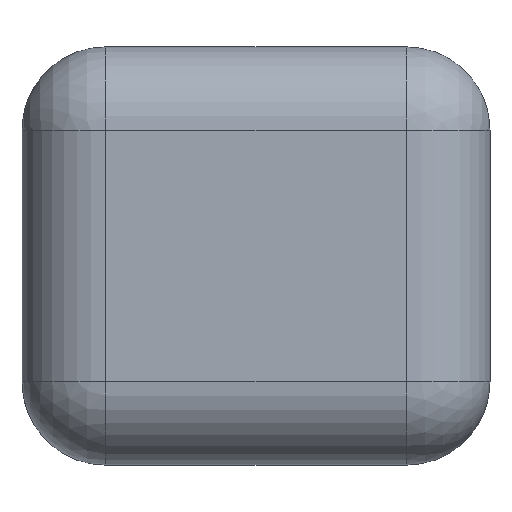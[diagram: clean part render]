
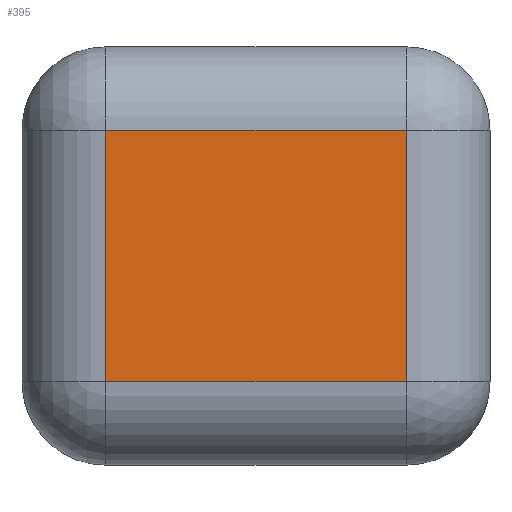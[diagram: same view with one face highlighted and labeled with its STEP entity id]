
A CAD part, left-side view. The second image highlights one B-rep face of the part: STEP entity #395.
In plain terms, the highlighted planar face has unit normal (-1, 0, 0).
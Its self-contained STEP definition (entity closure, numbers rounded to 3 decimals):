
#26 = CARTESIAN_POINT ( 'NONE',  ( -0.5, 0.1, -0.15 ) ) ;
#27 = VERTEX_POINT ( 'NONE', #26 ) ;
#242 = CARTESIAN_POINT ( 'NONE',  ( -0.5, 0.46, 0.151 ) ) ;
#243 = VERTEX_POINT ( 'NONE', #242 ) ;
#360 = CARTESIAN_POINT ( 'NONE',  ( -0.5, 0.1, 0.151 ) ) ;
#361 = VERTEX_POINT ( 'NONE', #360 ) ;
#362 = CARTESIAN_POINT ( 'NONE',  ( -0.5, 0.56, 0.151 ) ) ;
#363 = DIRECTION ( 'NONE',  ( 0., 1., 0. ) ) ;
#364 = VECTOR ( 'NONE', #363, 1000. ) ;
#365 = LINE ( 'NONE', #362, #364 ) ;
#366 = EDGE_CURVE ( 'NONE', #361, #243, #365, .T. ) ;
#367 = ORIENTED_EDGE ( 'NONE', *, *, #366, .T. ) ;
#368 = CARTESIAN_POINT ( 'NONE',  ( -0.5, 0.46, -0.15 ) ) ;
#369 = VERTEX_POINT ( 'NONE', #368 ) ;
#370 = CARTESIAN_POINT ( 'NONE',  ( -0.5, 0.46, -0.25 ) ) ;
#371 = DIRECTION ( 'NONE',  ( 0., 0., -1. ) ) ;
#372 = VECTOR ( 'NONE', #371, 1000. ) ;
#373 = LINE ( 'NONE', #370, #372 ) ;
#374 = EDGE_CURVE ( 'NONE', #243, #369, #373, .T. ) ;
#375 = ORIENTED_EDGE ( 'NONE', *, *, #374, .T. ) ;
#376 = CARTESIAN_POINT ( 'NONE',  ( -0.5, 0., -0.15 ) ) ;
#377 = DIRECTION ( 'NONE',  ( 0., -1., 0. ) ) ;
#378 = VECTOR ( 'NONE', #377, 1000. ) ;
#379 = LINE ( 'NONE', #376, #378 ) ;
#380 = EDGE_CURVE ( 'NONE', #369, #27, #379, .T. ) ;
#381 = ORIENTED_EDGE ( 'NONE', *, *, #380, .T. ) ;
#382 = CARTESIAN_POINT ( 'NONE',  ( -0.5, 0.1, 0.251 ) ) ;
#383 = DIRECTION ( 'NONE',  ( 0., 0., 1. ) ) ;
#384 = VECTOR ( 'NONE', #383, 1000. ) ;
#385 = LINE ( 'NONE', #382, #384 ) ;
#386 = EDGE_CURVE ( 'NONE', #27, #361, #385, .T. ) ;
#387 = ORIENTED_EDGE ( 'NONE', *, *, #386, .T. ) ;
#388 = EDGE_LOOP ( 'NONE', ( #367, #375, #381, #387 ) ) ;
#389 = FACE_OUTER_BOUND ( 'NONE', #388, .T. ) ;
#390 = CARTESIAN_POINT ( 'NONE',  ( -0.5, 0., 0. ) ) ;
#391 = DIRECTION ( 'NONE',  ( -1., 0., 0. ) ) ;
#392 = DIRECTION ( 'NONE',  ( 0., 0., 1. ) ) ;
#393 = AXIS2_PLACEMENT_3D ( 'NONE', #390, #391, #392 ) ;
#394 = PLANE ( 'NONE', #393 ) ;
#395 = ADVANCED_FACE ( 'NONE', ( #389 ), #394, .T. ) ;
